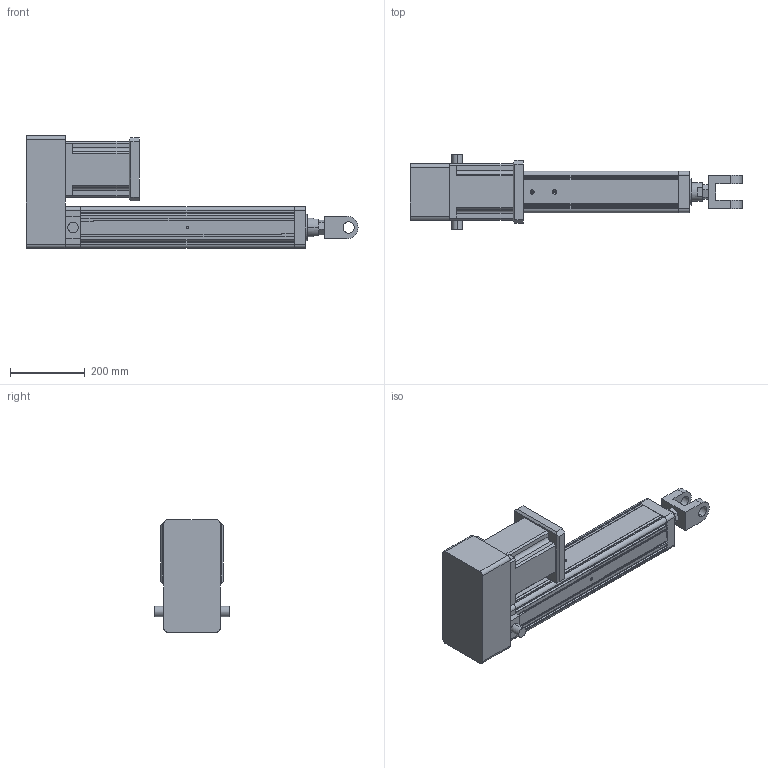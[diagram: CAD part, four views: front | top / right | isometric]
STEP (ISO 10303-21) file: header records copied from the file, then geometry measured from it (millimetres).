
FILE_DESCRIPTION (( 'STEP AP203' ), '1' );
FILE_NAME ('YRJ110-L400-H4K4.STEP', '2020-01-06T01:28:32', ( 'User' ), ( 'China' ), 'SwSTEP 2.0', 'SolidWorks 2016', '' );
FILE_SCHEMA (( 'CONFIG_CONTROL_DESIGN' ));
Length unit declared in the file: millimetre
Products named in the file (7): 萇儂碟-110; H5-110-2; K4-110; 095-100俴最倰第; 142熬厒儂; YRJ110-L400-H4K4; H5-110-1
Assembly tree (6 placements, depth 2):
  YRJ110-L400-H4K4
    095-100俴最倰第
    142熬厒儂
    H5-110-1
    H5-110-2
    萇儂碟-110
    K4-110
Bounding box: 886 x 200 x 300.5 mm (x, y, z)
Volume: 12428366.8 mm3; surface area: 1021472.4 mm2
Topology: 6 solids, 6 shells, 331 faces, 904 edges, 585 vertices
Faces by surface type: plane 188, cylinder 116, cone 27
Entity records: 11430 total; most frequent: CARTESIAN_POINT 2153, DIRECTION 1793, ORIENTED_EDGE 1776, EDGE_CURVE 888, LINE 619, VECTOR 619, AXIS2_PLACEMENT_3D 587, VERTEX_POINT 585
